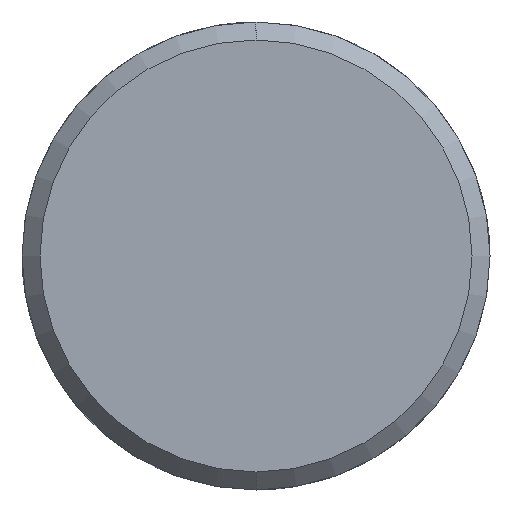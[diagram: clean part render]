
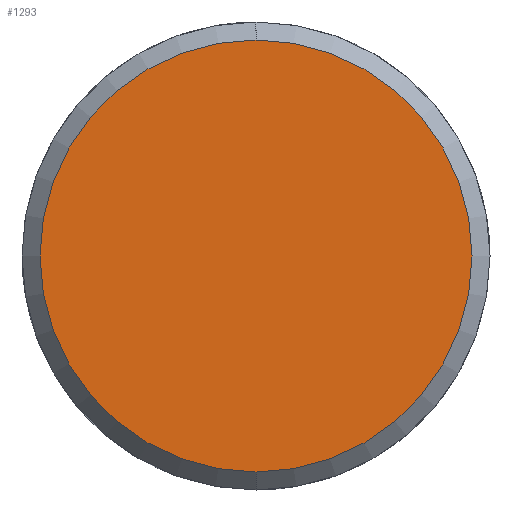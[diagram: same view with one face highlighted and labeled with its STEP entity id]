
A CAD part, left-side view. The second image highlights one B-rep face of the part: STEP entity #1293.
In plain terms, the highlighted planar face has unit normal (-1, 0, 0).
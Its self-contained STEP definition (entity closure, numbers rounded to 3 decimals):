
#1225=CARTESIAN_POINT('Vertex',(-5.,0.,-12.)) ;
#1228=CARTESIAN_POINT('Axis2P3D Location',(-5.,0.,0.)) ;
#1232=CARTESIAN_POINT('Vertex',(-5.,12.,0.)) ;
#1235=CARTESIAN_POINT('Axis2P3D Location',(-5.,0.,0.)) ;
#1239=CARTESIAN_POINT('Vertex',(-5.,0.,12.)) ;
#1261=CARTESIAN_POINT('Axis2P3D Location',(-5.,0.,0.)) ;
#1265=CARTESIAN_POINT('Vertex',(-5.,-12.,0.)) ;
#1268=CARTESIAN_POINT('Axis2P3D Location',(-5.,0.,0.)) ;
#1282=CARTESIAN_POINT('Axis2P3D Location',(-5.,0.,0.)) ;
#1229=DIRECTION('Axis2P3D Direction',(1.,0.,-0.)) ;
#1236=DIRECTION('Axis2P3D Direction',(1.,0.,-0.)) ;
#1262=DIRECTION('Axis2P3D Direction',(1.,0.,-0.)) ;
#1269=DIRECTION('Axis2P3D Direction',(1.,0.,-0.)) ;
#1283=DIRECTION('Axis2P3D Direction',(1.,0.,-0.)) ;
#1284=DIRECTION('Axis2P3D XDirection',(-0.,0.,-1.)) ;
#1230=AXIS2_PLACEMENT_3D('Circle Axis2P3D',#1228,#1229,$) ;
#1237=AXIS2_PLACEMENT_3D('Circle Axis2P3D',#1235,#1236,$) ;
#1263=AXIS2_PLACEMENT_3D('Circle Axis2P3D',#1261,#1262,$) ;
#1270=AXIS2_PLACEMENT_3D('Circle Axis2P3D',#1268,#1269,$) ;
#1285=AXIS2_PLACEMENT_3D('Plane Axis2P3D',#1282,#1283,#1284) ;
#1288=ORIENTED_EDGE('',*,*,#1234,.F.) ;
#1289=ORIENTED_EDGE('',*,*,#1272,.F.) ;
#1290=ORIENTED_EDGE('',*,*,#1267,.F.) ;
#1291=ORIENTED_EDGE('',*,*,#1241,.F.) ;
#1293=ADVANCED_FACE('351-16X36X100',(#1292),#1286,.F.) ;
#1231=CIRCLE('generated circle',#1230,12.) ;
#1238=CIRCLE('generated circle',#1237,12.) ;
#1264=CIRCLE('generated circle',#1263,12.) ;
#1271=CIRCLE('generated circle',#1270,12.) ;
#1234=EDGE_CURVE('',#1226,#1233,#1231,.T.) ;
#1241=EDGE_CURVE('',#1233,#1240,#1238,.T.) ;
#1267=EDGE_CURVE('',#1240,#1266,#1264,.T.) ;
#1272=EDGE_CURVE('',#1266,#1226,#1271,.T.) ;
#1287=EDGE_LOOP('',(#1288,#1289,#1290,#1291)) ;
#1292=FACE_OUTER_BOUND('',#1287,.T.) ;
#1286=PLANE('Plane',#1285) ;
#1226=VERTEX_POINT('',#1225) ;
#1233=VERTEX_POINT('',#1232) ;
#1240=VERTEX_POINT('',#1239) ;
#1266=VERTEX_POINT('',#1265) ;
